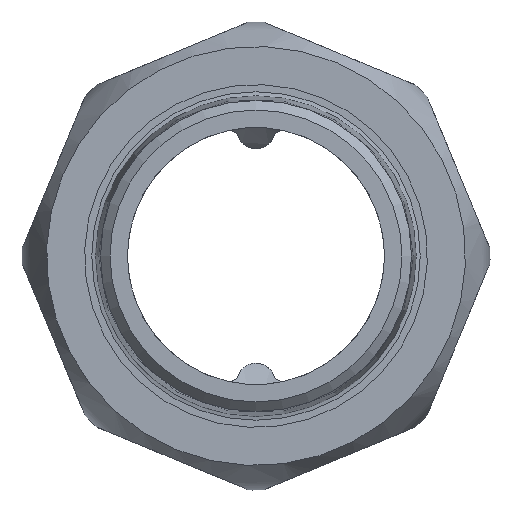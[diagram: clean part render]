
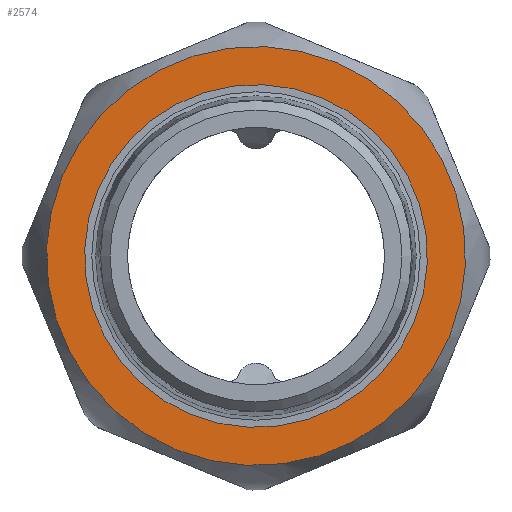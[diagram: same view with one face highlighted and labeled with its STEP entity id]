
A CAD part, left-side view. The second image highlights one B-rep face of the part: STEP entity #2574.
In plain terms, the highlighted planar face has unit normal (-1, 0, 0) as drawn and (1, 0, 0) by its records, which use the part's own axes.
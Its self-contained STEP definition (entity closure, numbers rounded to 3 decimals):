
#2540=CARTESIAN_POINT('',(18.0,22.0,0.0));
#2541=VERTEX_POINT('',#2540);
#2542=CARTESIAN_POINT('',(18.0,0.0,0.0));
#2543=DIRECTION('',(1.0,0.0,0.0));
#2544=DIRECTION('',(0.0,1.0,0.0));
#2545=AXIS2_PLACEMENT_3D('',#2542,#2543,#2544);
#2546=CIRCLE('',#2545,22.0);
#2547=EDGE_CURVE('',#2541,#2541,#2546,.T.);
#2555=CARTESIAN_POINT('',(18.0,20.0,0.0));
#2556=DIRECTION('',(1.0,0.0,0.0));
#2557=DIRECTION('',(0.0,0.0,-1.0));
#2558=AXIS2_PLACEMENT_3D('',#2555,#2556,#2557);
#2559=PLANE('',#2558);
#2560=ORIENTED_EDGE('',*,*,#2547,.T.);
#2561=EDGE_LOOP('',(#2560));
#2562=FACE_OUTER_BOUND('',#2561,.T.);
#2563=CARTESIAN_POINT('',(18.,18.0,0.0));
#2564=VERTEX_POINT('',#2563);
#2565=CARTESIAN_POINT('',(18.,0.0,0.0));
#2566=DIRECTION('',(1.0,0.0,0.0));
#2567=DIRECTION('',(0.0,1.0,0.0));
#2568=AXIS2_PLACEMENT_3D('',#2565,#2566,#2567);
#2569=CIRCLE('',#2568,18.0);
#2570=EDGE_CURVE('',#2564,#2564,#2569,.T.);
#2571=ORIENTED_EDGE('',*,*,#2570,.F.);
#2572=EDGE_LOOP('',(#2571));
#2573=FACE_BOUND('',#2572,.T.);
#2574=ADVANCED_FACE('',(#2562,#2573),#2559,.T.);
